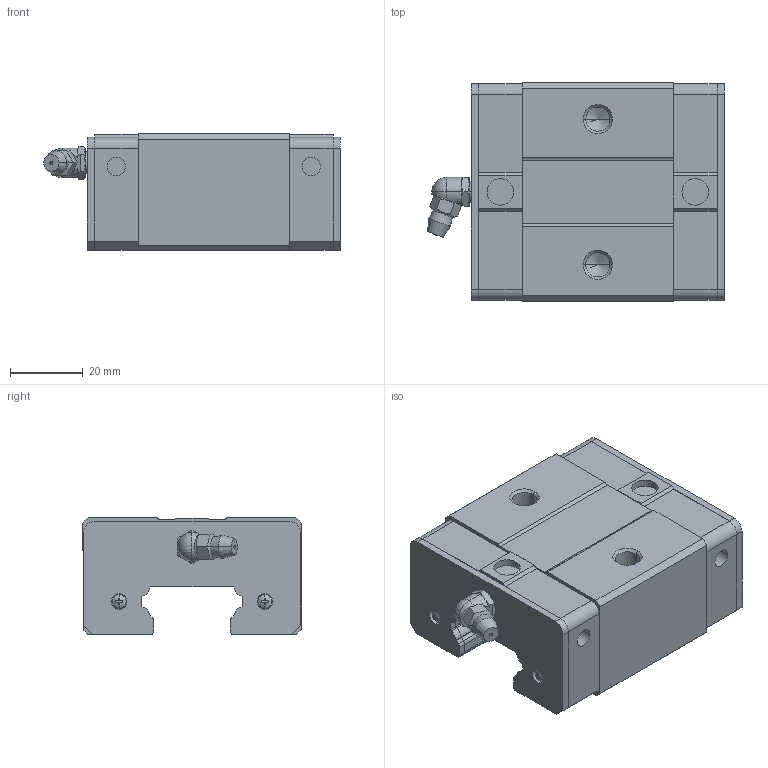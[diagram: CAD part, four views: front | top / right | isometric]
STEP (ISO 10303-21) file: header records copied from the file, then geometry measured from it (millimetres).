
FILE_DESCRIPTION(('starvars output'),'2;1');
FILE_NAME('cv20190610052238000013276.stp','05:22:39 2019/06/10',( 'Thomas Industrial Network Germany GmbH'),( 'Thomas Industrial Network Germany GmbH'),'unknown preprocess','ACIS' ,'unknown authorization');
FILE_SCHEMA(('CONFIG_CONTROL_DESIGN {UNKNOWN IMPLEMENTATION LEVEL}'));
Length unit declared in the file: millimetre
Products named in the file (10): PRODUCT_ID_1; PRODUCT_ID_2; PRODUCT_ID_3; PRODUCT_ID_4; PRODUCT_ID_5; PRODUCT_ID_6; PRODUCT_ID_7; PRODUCT_ID_8; PRODUCT_ID_9; PRODUCT_ID_10
Bounding box: 81.5 x 60 x 32 mm (x, y, z)
Volume: 107649.2 mm3; surface area: 32105.3 mm2
Topology: 10 solids, 10 shells, 393 faces, 1022 edges, 658 vertices
Faces by surface type: plane 202, cylinder 127, cone 52, sphere 12
Entity records: 11814 total; most frequent: ORIENTED_EDGE 2028, CARTESIAN_POINT 1932, DIRECTION 1739, EDGE_CURVE 1014, VERTEX_POINT 658, AXIS2_PLACEMENT_3D 591, VECTOR 557, LINE 557
